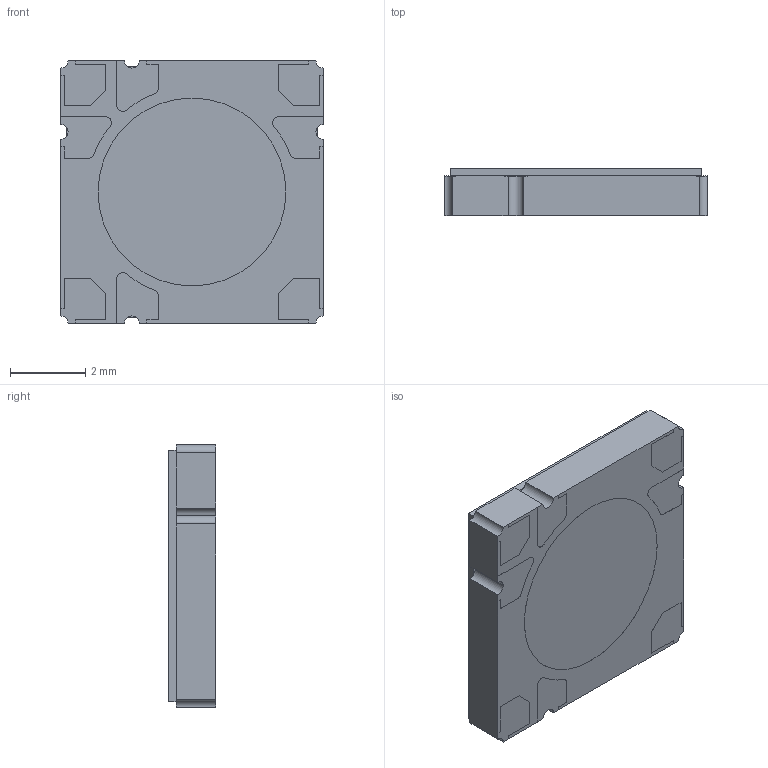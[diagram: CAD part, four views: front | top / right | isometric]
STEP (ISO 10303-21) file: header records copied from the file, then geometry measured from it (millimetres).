
FILE_DESCRIPTION (( 'STEP AP214' ), '1' );
FILE_NAME ('LZ4-04UV00-P3_RevC3.STEP', '2015-12-01T00:39:10', ( '' ), ( '' ), 'SwSTEP 2.0', 'SolidWorks 2014', '' );
FILE_SCHEMA (( 'AUTOMOTIVE_DESIGN' ));
Length unit declared in the file: millimetre
Products named in the file (4): 10w led_RevA_LZ4-04UV00-P3; 10w led_RevA; 2400-0133_Flat-Glass_Lens_RevB_cpy_11-30-15; LZ4-04UV00-P3_RevC3
Assembly tree (3 placements, depth 3):
  LZ4-04UV00-P3_RevC3
    10w led_RevA_LZ4-04UV00-P3
      10w led_RevA
      2400-0133_Flat-Glass_Lens_RevB_cpy_11-30-15
Bounding box: 7 x 1.26 x 7 mm (x, y, z)
Volume: 45.6 mm3; surface area: 244.2 mm2
Topology: 10 solids, 10 shells, 203 faces, 537 edges, 358 vertices
Faces by surface type: plane 140, cylinder 37, bspline 24, cone 2
Entity records: 9100 total; most frequent: CARTESIAN_POINT 2633, ORIENTED_EDGE 1074, DIRECTION 939, EDGE_CURVE 537, VECTOR 411, LINE 411, VERTEX_POINT 358, AXIS2_PLACEMENT_3D 264
